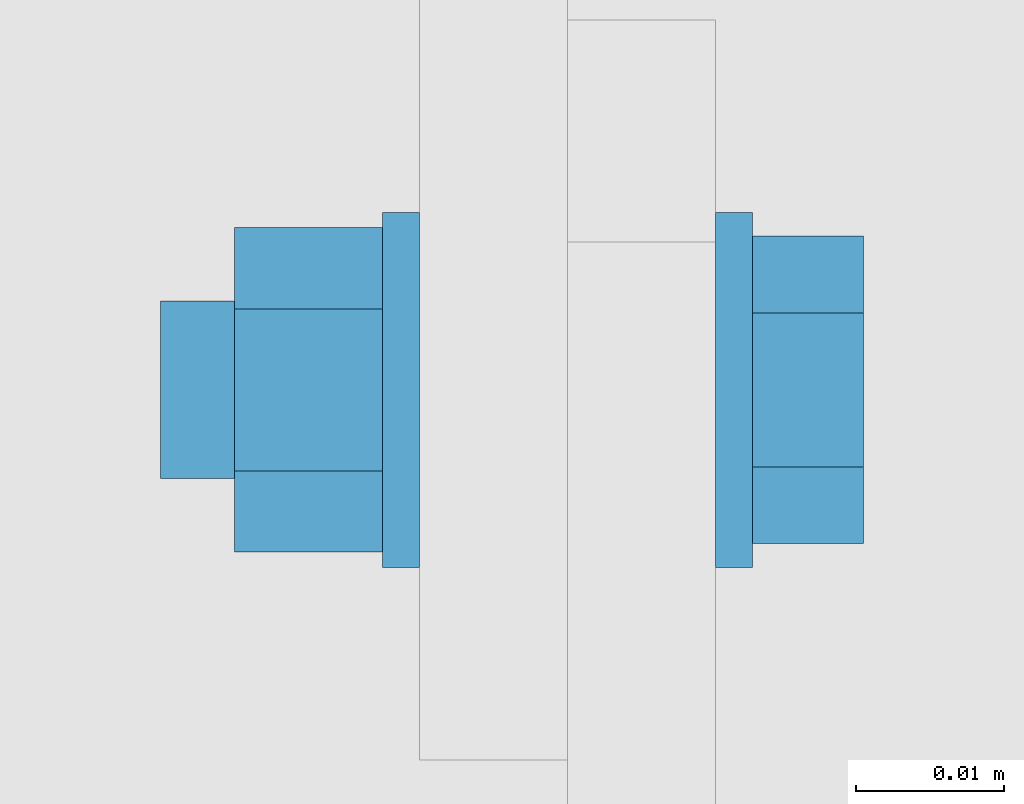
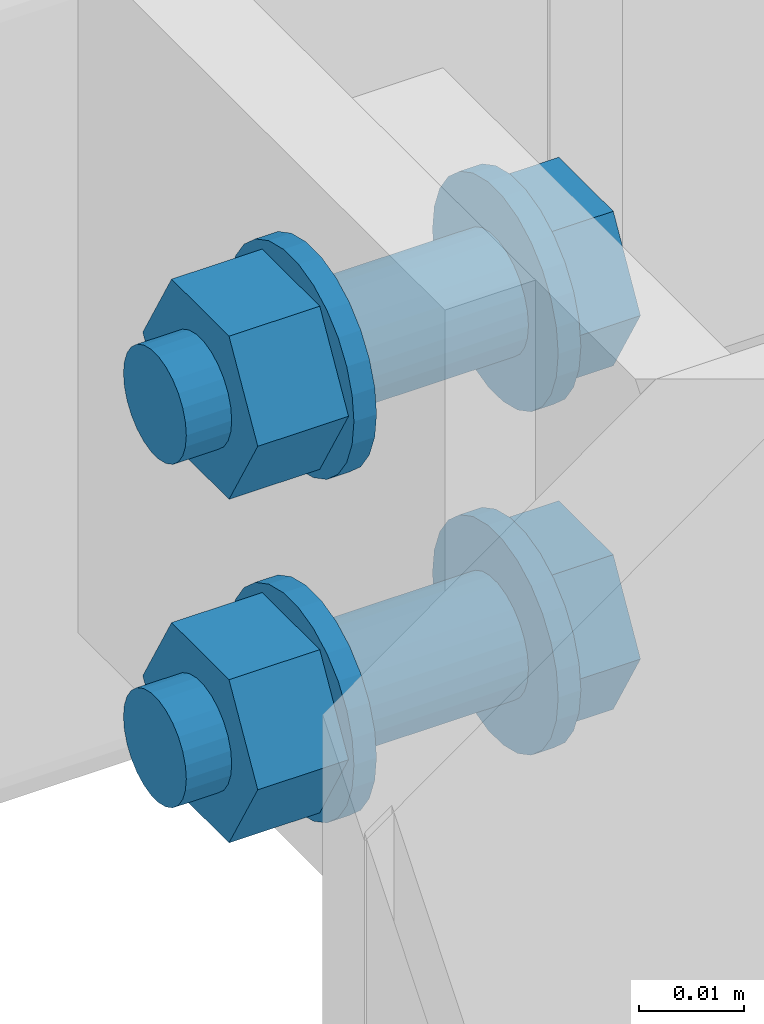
# One storey, part 240 of 271: 1 mechanical fastener, 1 element without a shape of its own.
"""IFC2X3 building model written with IfcOpenShell, lengths in millimetres."""

from ifc_helpers import new_model, si_unit, frame, origin_with_axes, origin_2d_with_axis, place, context, subcontext, project, spatial, polyline, circle, outline, extrude, source, transform, mapped, material, type_object, element, aggregate, save


model = new_model("IFC2X3")

# Units and contexts
model_context = context("Model", 3, precision=1e-05, world=origin_with_axes())
body_context = subcontext(model_context, "Body", "Model", "MODEL_VIEW")
ifc_project = project(units=[si_unit("LENGTHUNIT", "METRE", prefix="MILLI"), si_unit("AREAUNIT", "SQUARE_METRE"), si_unit("VOLUMEUNIT", "CUBIC_METRE"), si_unit("MASSUNIT", "GRAM", prefix="KILO"), si_unit("TIMEUNIT", "SECOND"), si_unit("PLANEANGLEUNIT", "RADIAN"), si_unit("SOLIDANGLEUNIT", "STERADIAN"), si_unit("THERMODYNAMICTEMPERATUREUNIT", "DEGREE_CELSIUS"), si_unit("LUMINOUSINTENSITYUNIT", "LUMEN")], contexts=[model_context])

# Site, building, storey
site_placement = place(None, origin_with_axes())
site = spatial("IfcSite", under=ifc_project, at=site_placement, Name="Undefined", CompositionType="ELEMENT")
building_placement = place(site_placement, origin_with_axes())
building = spatial("IfcBuilding", under=site, at=building_placement, Name="Undefined", CompositionType="ELEMENT")
storey_placement = place(building_placement, origin_with_axes())
storey = spatial("IfcBuildingStorey", under=building, at=storey_placement, Name="Undefined", CompositionType="ELEMENT", Elevation=0.0)

# Assembly, mechanical fastener
assembly_placement = place(storey_placement, origin_with_axes())
assembly = element("IfcElementAssembly", 1, at=assembly_placement, inside=storey, AssemblyPlace="NOTDEFINED", PredefinedType="RIGID_FRAME")
ifc_material = material(Name="Undefined")
mechanical_fastener_type = type_object("IfcMechanicalFastenerType", Name="Bolt assembly")
shared_shape = source(origin_with_axes(), body_context, "Body", "SweptSolid", [
    extrude(circle(Radius=6.5, at=origin_2d_with_axis()), frame((0.0, -5.1, 0.0), z_axis=(0.0, 1.0, 0.0), x_axis=(1.0, 0.0, 0.0)), (0.0, 0.0, 1.0), 10.1),
    extrude(circle(Radius=6.5, at=origin_2d_with_axis()), frame((0.0, -14.9000000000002, 0.0), z_axis=(0.0, 1.0, 0.0), x_axis=(1.0, 0.0, 0.0)), (0.0, 0.0, 1.0), 10.0),
    extrude(outline(polyline([(10.39230484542, 0.0), (5.19615242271, 9.00000000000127), (-5.19615242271, 9.00000000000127), (-10.39230484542, 0.0), (-5.19615242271, -9.00000000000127), (5.19615242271, -9.00000000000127), (10.39230484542, 0.0)])), frame((0.0, -25.0000000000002, 0.0), z_axis=(0.0, 1.0, 0.0), x_axis=(1.0, 0.0, 0.0)), (0.0, 0.0, 1.0), 7.5),
    extrude(circle(Radius=6.0, at=origin_2d_with_axis()), frame((0.0, -17.5000000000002, 0.0), z_axis=(0.0, 1.0, 0.0), x_axis=(1.0, 0.0, 0.0)), (0.0, 0.0, 1.0), 40.0),
    extrude(circle(Radius=12.0, at=origin_2d_with_axis()), frame((0.0, -17.5000000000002, 0.0), z_axis=(0.0, 1.0, 0.0), x_axis=(1.0, 0.0, 0.0)), (0.0, 0.0, 1.0), 2.5),
    extrude(circle(Radius=12.0, at=origin_2d_with_axis()), frame((0.0, 5.00000000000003, 0.0), z_axis=(0.0, 1.0, 0.0), x_axis=(1.0, 0.0, 0.0)), (0.0, 0.0, 1.0), 2.5),
    extrude(outline(polyline([(10.96965511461, 0.0), (5.484827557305, 9.50000000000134), (-5.484827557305, 9.50000000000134), (-10.96965511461, 0.0), (-5.484827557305, -9.50000000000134), (5.484827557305, -9.50000000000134), (10.96965511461, 0.0)])), frame((0.0, 7.50000000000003, 0.0), z_axis=(0.0, 1.0, 0.0), x_axis=(1.0, 0.0, 0.0)), (0.0, 0.0, 1.0), 10.0),
])
mechanical_fastener_placement = place(assembly_placement, frame((6133.37568709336, 2704.32498425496, 20164.3499999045), z_axis=(0.0, 0.0, -1.0), x_axis=(0.0, -1.0, 0.0)))
mechanical_fastener = element("IfcMechanicalFastener", 2, at=mechanical_fastener_placement, type_object=mechanical_fastener_type, material=ifc_material, Name="Bolt assembly", NominalDiameter=12.0, NominalLength=40.0, context=body_context, shape_type="MappedRepresentation", body=[
    mapped(shared_shape, transform((0.0, 0.0, -20.0))),
    mapped(shared_shape, transform((0.0, 0.0, 20.0))),
])
aggregate(assembly, [mechanical_fastener])

save(model, "model.ifc")
